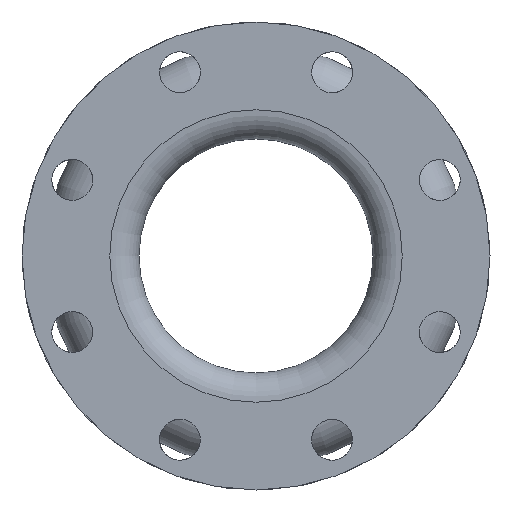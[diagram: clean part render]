
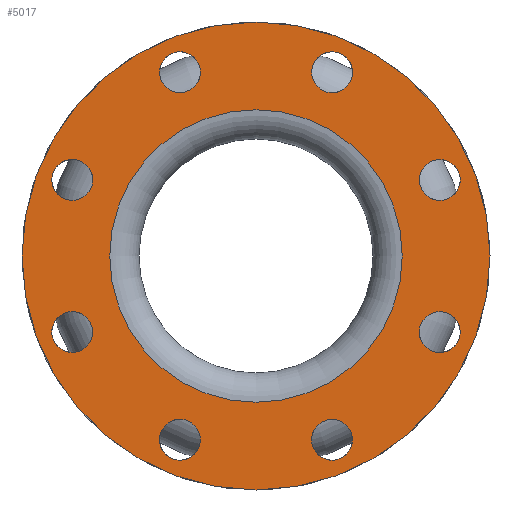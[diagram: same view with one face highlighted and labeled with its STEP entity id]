
A CAD part, left-side view. The second image highlights one B-rep face of the part: STEP entity #5017.
In plain terms, the highlighted planar face has unit normal (-1, 0, 0).
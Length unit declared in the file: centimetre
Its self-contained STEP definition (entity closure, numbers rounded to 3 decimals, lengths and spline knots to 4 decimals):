
#272=FACE_BOUND('',#883,.T.);
#273=FACE_BOUND('',#884,.T.);
#274=FACE_BOUND('',#885,.T.);
#275=FACE_BOUND('',#886,.T.);
#276=FACE_BOUND('',#887,.T.);
#277=FACE_BOUND('',#888,.T.);
#278=FACE_BOUND('',#889,.T.);
#279=FACE_BOUND('',#890,.T.);
#280=FACE_BOUND('',#891,.T.);
#281=FACE_BOUND('',#892,.T.);
#883=EDGE_LOOP('',(#3827));
#884=EDGE_LOOP('',(#3828));
#885=EDGE_LOOP('',(#3829));
#886=EDGE_LOOP('',(#3830));
#887=EDGE_LOOP('',(#3831));
#888=EDGE_LOOP('',(#3832));
#889=EDGE_LOOP('',(#3833));
#890=EDGE_LOOP('',(#3834));
#891=EDGE_LOOP('',(#3835));
#892=EDGE_LOOP('',(#3836));
#1746=CIRCLE('',#5471,1.1113);
#1748=CIRCLE('',#5474,1.1113);
#1750=CIRCLE('',#5477,1.1113);
#1752=CIRCLE('',#5480,1.1113);
#1754=CIRCLE('',#5483,1.1113);
#1756=CIRCLE('',#5486,1.1113);
#1758=CIRCLE('',#5489,1.1113);
#1760=CIRCLE('',#5492,1.1113);
#1788=CIRCLE('',#5539,7.9375);
#1789=CIRCLE('',#5541,12.7);
#2206=VERTEX_POINT('',#8287);
#2208=VERTEX_POINT('',#8292);
#2210=VERTEX_POINT('',#8297);
#2212=VERTEX_POINT('',#8302);
#2214=VERTEX_POINT('',#8307);
#2216=VERTEX_POINT('',#8312);
#2218=VERTEX_POINT('',#8317);
#2220=VERTEX_POINT('',#8322);
#2248=VERTEX_POINT('',#8397);
#2249=VERTEX_POINT('',#8400);
#2786=EDGE_CURVE('',#2206,#2206,#1746,.T.);
#2788=EDGE_CURVE('',#2208,#2208,#1748,.T.);
#2790=EDGE_CURVE('',#2210,#2210,#1750,.T.);
#2792=EDGE_CURVE('',#2212,#2212,#1752,.T.);
#2794=EDGE_CURVE('',#2214,#2214,#1754,.T.);
#2796=EDGE_CURVE('',#2216,#2216,#1756,.T.);
#2798=EDGE_CURVE('',#2218,#2218,#1758,.T.);
#2800=EDGE_CURVE('',#2220,#2220,#1760,.T.);
#2828=EDGE_CURVE('',#2248,#2248,#1788,.T.);
#2829=EDGE_CURVE('',#2249,#2249,#1789,.T.);
#3827=ORIENTED_EDGE('',*,*,#2786,.T.);
#3828=ORIENTED_EDGE('',*,*,#2788,.T.);
#3829=ORIENTED_EDGE('',*,*,#2790,.T.);
#3830=ORIENTED_EDGE('',*,*,#2792,.T.);
#3831=ORIENTED_EDGE('',*,*,#2794,.T.);
#3832=ORIENTED_EDGE('',*,*,#2796,.T.);
#3833=ORIENTED_EDGE('',*,*,#2798,.T.);
#3834=ORIENTED_EDGE('',*,*,#2800,.T.);
#3835=ORIENTED_EDGE('',*,*,#2829,.F.);
#3836=ORIENTED_EDGE('',*,*,#2828,.T.);
#4549=PLANE('',#5540);
#5017=ADVANCED_FACE('',(#272,#273,#274,#275,#276,#277,#278,#279,#280,#281),
#4549,.T.);
#5471=AXIS2_PLACEMENT_3D('',#8288,#6617,#6618);
#5474=AXIS2_PLACEMENT_3D('',#8293,#6623,#6624);
#5477=AXIS2_PLACEMENT_3D('',#8298,#6629,#6630);
#5480=AXIS2_PLACEMENT_3D('',#8303,#6635,#6636);
#5483=AXIS2_PLACEMENT_3D('',#8308,#6641,#6642);
#5486=AXIS2_PLACEMENT_3D('',#8313,#6647,#6648);
#5489=AXIS2_PLACEMENT_3D('',#8318,#6653,#6654);
#5492=AXIS2_PLACEMENT_3D('',#8323,#6659,#6660);
#5539=AXIS2_PLACEMENT_3D('',#8398,#6753,#6754);
#5540=AXIS2_PLACEMENT_3D('',#8399,#6755,#6756);
#5541=AXIS2_PLACEMENT_3D('',#8401,#6757,#6758);
#6617=DIRECTION('center_axis',(1.,0.,0.));
#6618=DIRECTION('ref_axis',(0.,-0.707,0.707));
#6623=DIRECTION('center_axis',(1.,0.,0.));
#6624=DIRECTION('ref_axis',(0.,0.,
1.));
#6629=DIRECTION('center_axis',(1.,0.,0.));
#6630=DIRECTION('ref_axis',(0.,0.707,0.707));
#6635=DIRECTION('center_axis',(1.,0.,0.));
#6636=DIRECTION('ref_axis',(0.,1.,0.));
#6641=DIRECTION('center_axis',(1.,0.,0.));
#6642=DIRECTION('ref_axis',(0.,0.707,-0.707));
#6647=DIRECTION('center_axis',(1.,0.,0.));
#6648=DIRECTION('ref_axis',(0.,0.,-1.));
#6653=DIRECTION('center_axis',(1.,0.,0.));
#6654=DIRECTION('ref_axis',(0.,-0.707,-0.707));
#6659=DIRECTION('center_axis',(1.,0.,0.));
#6660=DIRECTION('ref_axis',(0.,-1.,0.));
#6753=DIRECTION('center_axis',(1.,0.,0.));
#6754=DIRECTION('ref_axis',(0.,0.,-1.));
#6755=DIRECTION('center_axis',(-1.,0.,0.));
#6756=DIRECTION('ref_axis',(0.,0.,1.));
#6757=DIRECTION('center_axis',(1.,0.,0.));
#6758=DIRECTION('ref_axis',(0.,0.,-1.));
#8287=CARTESIAN_POINT('',(-12.7,4.9168,-10.7591));
#8288=CARTESIAN_POINT('Origin',(-12.7,4.1311,-9.9733));
#8292=CARTESIAN_POINT('',(-12.7,-4.1311,-11.0845));
#8293=CARTESIAN_POINT('Origin',(-12.7,-4.1311,-9.9733));
#8297=CARTESIAN_POINT('',(-12.7,-10.7591,-4.9168));
#8298=CARTESIAN_POINT('Origin',(-12.7,-9.9733,-4.1311));
#8302=CARTESIAN_POINT('',(-12.7,-11.0845,4.1311));
#8303=CARTESIAN_POINT('Origin',(-12.7,-9.9733,4.1311));
#8307=CARTESIAN_POINT('',(-12.7,-4.9168,10.7591));
#8308=CARTESIAN_POINT('Origin',(-12.7,-4.1311,9.9733));
#8312=CARTESIAN_POINT('',(-12.7,4.1311,11.0845));
#8313=CARTESIAN_POINT('Origin',(-12.7,4.1311,9.9733));
#8317=CARTESIAN_POINT('',(-12.7,10.7591,4.9168));
#8318=CARTESIAN_POINT('Origin',(-12.7,9.9733,4.1311));
#8322=CARTESIAN_POINT('',(-12.7,11.0845,-4.1311));
#8323=CARTESIAN_POINT('Origin',(-12.7,9.9733,-4.1311));
#8397=CARTESIAN_POINT('',(-12.7,7.9375,0.));
#8398=CARTESIAN_POINT('Origin',(-12.7,0.,0.));
#8399=CARTESIAN_POINT('Origin',(-12.7,12.7,0.));
#8400=CARTESIAN_POINT('',(-12.7,12.7,0.));
#8401=CARTESIAN_POINT('Origin',(-12.7,0.,0.));
